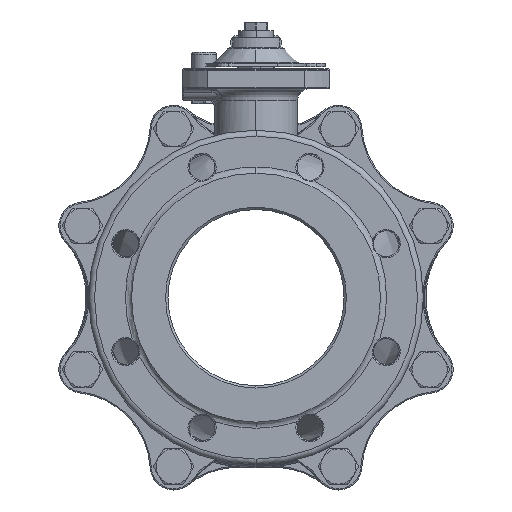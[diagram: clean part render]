
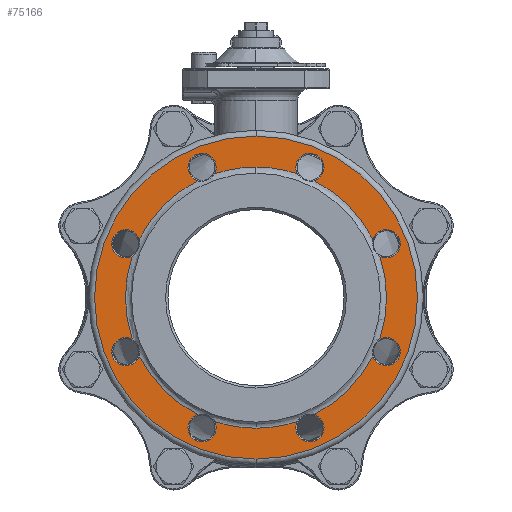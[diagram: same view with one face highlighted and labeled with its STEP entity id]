
A CAD part, left-side view. The second image highlights one B-rep face of the part: STEP entity #75166.
In plain terms, the highlighted planar face has unit normal (-1, 0, 0).
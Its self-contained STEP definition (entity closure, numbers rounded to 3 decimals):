
#14162=CARTESIAN_POINT('',(-137.,0.,0.));
#14163=DIRECTION('',(1.,0.,0.));
#14164=DIRECTION('',(0.,0.949,-0.317));
#14165=AXIS2_PLACEMENT_3D('',#14162,#14163,#14164);
#14167=CARTESIAN_POINT('',(-137.,0.,0.));
#14168=DIRECTION('',(1.,0.,0.));
#14169=DIRECTION('',(0.,0.447,-0.895));
#14170=AXIS2_PLACEMENT_3D('',#14167,#14168,#14169);
#14172=CARTESIAN_POINT('',(-137.,0.,0.));
#14173=DIRECTION('',(1.,0.,0.));
#14174=DIRECTION('',(0.,0.,-1.));
#14175=AXIS2_PLACEMENT_3D('',#14172,#14173,#14174);
#14177=CARTESIAN_POINT('',(-137.,0.,0.));
#14178=DIRECTION('',(-1.,0.,0.));
#14179=DIRECTION('',(0.,0.,-1.));
#14180=AXIS2_PLACEMENT_3D('',#14177,#14178,#14179);
#14182=CARTESIAN_POINT('',(-137.,0.,0.));
#14183=DIRECTION('',(-1.,0.,0.));
#14184=DIRECTION('',(0.,-0.447,-0.895));
#14185=AXIS2_PLACEMENT_3D('',#14182,#14183,#14184);
#14187=CARTESIAN_POINT('',(-137.,0.,0.));
#14188=DIRECTION('',(-1.,0.,0.));
#14189=DIRECTION('',(0.,-0.949,-0.317));
#14190=AXIS2_PLACEMENT_3D('',#14187,#14188,#14189);
#14192=CARTESIAN_POINT('',(-137.,0.,0.));
#14193=DIRECTION('',(-1.,0.,0.));
#14194=DIRECTION('',(0.,-0.895,0.447));
#14195=AXIS2_PLACEMENT_3D('',#14192,#14193,#14194);
#14197=CARTESIAN_POINT('',(-137.,0.,0.));
#14198=DIRECTION('',(-1.,0.,0.));
#14199=DIRECTION('',(0.,-0.317,0.949));
#14200=AXIS2_PLACEMENT_3D('',#14197,#14198,#14199);
#14202=CARTESIAN_POINT('',(-137.,0.,0.));
#14203=DIRECTION('',(1.,0.,0.));
#14204=DIRECTION('',(0.,0.317,0.949));
#14205=AXIS2_PLACEMENT_3D('',#14202,#14203,#14204);
#14207=CARTESIAN_POINT('',(-137.,0.,0.));
#14208=DIRECTION('',(1.,0.,0.));
#14209=DIRECTION('',(0.,0.895,0.447));
#14210=AXIS2_PLACEMENT_3D('',#14207,#14208,#14209);
#14217=CARTESIAN_POINT('',(-137.,0.,0.));
#14218=DIRECTION('',(1.,0.,0.));
#14219=DIRECTION('',(0.,0.,-1.));
#14220=AXIS2_PLACEMENT_3D('',#14217,#14218,#14219);
#14240=CARTESIAN_POINT('',(-137.,0.,0.));
#14241=DIRECTION('',(1.,0.,0.));
#14242=DIRECTION('',(0.,0.,1.));
#14243=AXIS2_PLACEMENT_3D('',#14240,#14241,#14242);
#15590=CARTESIAN_POINT('',(-137.,110.866,45.922));
#15591=DIRECTION('',(1.,0.,0.));
#15592=DIRECTION('',(0.,-0.449,-0.894));
#15593=AXIS2_PLACEMENT_3D('',#15590,#15591,#15592);
#15754=CARTESIAN_POINT('',(-137.,45.922,110.866));
#15755=DIRECTION('',(1.,0.,0.));
#15756=DIRECTION('',(0.,0.314,-0.949));
#15757=AXIS2_PLACEMENT_3D('',#15754,#15755,#15756);
#15909=CARTESIAN_POINT('',(-137.,-45.922,110.866));
#15910=DIRECTION('',(1.,0.,0.));
#15911=DIRECTION('',(0.,0.894,-0.449));
#15912=AXIS2_PLACEMENT_3D('',#15909,#15910,#15911);
#16064=CARTESIAN_POINT('',(-137.,-110.866,45.922));
#16065=DIRECTION('',(1.,0.,0.));
#16066=DIRECTION('',(0.,0.949,0.314));
#16067=AXIS2_PLACEMENT_3D('',#16064,#16065,#16066);
#16228=CARTESIAN_POINT('',(-137.,-110.866,-45.922));
#16229=DIRECTION('',(1.,0.,0.));
#16230=DIRECTION('',(0.,0.449,0.894));
#16231=AXIS2_PLACEMENT_3D('',#16228,#16229,#16230);
#16396=CARTESIAN_POINT('',(-137.,-45.922,-110.866));
#16397=DIRECTION('',(1.,0.,0.));
#16398=DIRECTION('',(0.,-0.314,0.949));
#16399=AXIS2_PLACEMENT_3D('',#16396,#16397,#16398);
#16551=CARTESIAN_POINT('',(-137.,45.922,-110.866));
#16552=DIRECTION('',(1.,0.,0.));
#16553=DIRECTION('',(0.,-0.894,0.449));
#16554=AXIS2_PLACEMENT_3D('',#16551,#16552,#16553);
#16702=CARTESIAN_POINT('',(-137.,110.866,-45.922));
#16703=DIRECTION('',(1.,0.,0.));
#16704=DIRECTION('',(0.,-0.949,-0.314));
#16705=AXIS2_PLACEMENT_3D('',#16702,#16703,#16704);
#49222=CARTESIAN_POINT('',(-137.,0.,-137.5));
#49223=CARTESIAN_POINT('',(-137.,0.,137.5));
#49224=VERTEX_POINT('',#49222);
#49225=VERTEX_POINT('',#49223);
#49362=CARTESIAN_POINT('',(-137.,105.478,35.199));
#49363=VERTEX_POINT('',#49362);
#49364=CARTESIAN_POINT('',(-137.,49.694,99.474));
#49365=VERTEX_POINT('',#49364);
#49366=CARTESIAN_POINT('',(-137.,-35.199,105.478));
#49367=VERTEX_POINT('',#49366);
#49368=CARTESIAN_POINT('',(-137.,-99.474,49.694));
#49369=VERTEX_POINT('',#49368);
#49370=CARTESIAN_POINT('',(-137.,-105.478,-35.199));
#49371=VERTEX_POINT('',#49370);
#49372=CARTESIAN_POINT('',(-137.,-49.694,-99.474));
#49373=VERTEX_POINT('',#49372);
#49374=CARTESIAN_POINT('',(-137.,35.199,-105.478));
#49375=VERTEX_POINT('',#49374);
#49376=CARTESIAN_POINT('',(-137.,99.474,-49.694));
#49377=VERTEX_POINT('',#49376);
#49378=CARTESIAN_POINT('',(-137.,99.474,49.694));
#49379=VERTEX_POINT('',#49378);
#49380=CARTESIAN_POINT('',(-137.,35.199,105.478));
#49381=VERTEX_POINT('',#49380);
#49382=CARTESIAN_POINT('',(-137.,-49.694,99.474));
#49383=VERTEX_POINT('',#49382);
#49384=CARTESIAN_POINT('',(-137.,-105.478,35.199));
#49385=VERTEX_POINT('',#49384);
#49386=CARTESIAN_POINT('',(-137.,-99.474,-49.694));
#49387=VERTEX_POINT('',#49386);
#49388=CARTESIAN_POINT('',(-137.,-35.199,-105.478));
#49389=VERTEX_POINT('',#49388);
#49390=CARTESIAN_POINT('',(-137.,49.694,-99.474));
#49391=VERTEX_POINT('',#49390);
#49392=CARTESIAN_POINT('',(-137.,105.478,-35.199));
#49393=VERTEX_POINT('',#49392);
#50284=CARTESIAN_POINT('',(-137.,0.,111.196));
#50285=VERTEX_POINT('',#50284);
#50286=CARTESIAN_POINT('',(-137.,0.,-111.196));
#50287=VERTEX_POINT('',#50286);
#75127=CARTESIAN_POINT('',(-137.,0.,0.));
#75128=DIRECTION('',(-1.,0.,0.));
#75129=DIRECTION('',(0.,0.,1.));
#75130=AXIS2_PLACEMENT_3D('',#75127,#75128,#75129);
#75131=PLANE('',#75130);
#75133=ORIENTED_EDGE('',*,*,#75132,.T.);
#75135=ORIENTED_EDGE('',*,*,#75134,.T.);
#75136=EDGE_LOOP('',(#75133,#75135));
#75137=FACE_OUTER_BOUND('',#75136,.F.);
#75139=ORIENTED_EDGE('',*,*,#75138,.F.);
#75140=ORIENTED_EDGE('',*,*,#75111,.F.);
#75142=ORIENTED_EDGE('',*,*,#75141,.F.);
#75143=ORIENTED_EDGE('',*,*,#75105,.F.);
#75145=ORIENTED_EDGE('',*,*,#75144,.F.);
#75146=ORIENTED_EDGE('',*,*,#75101,.F.);
#75147=ORIENTED_EDGE('',*,*,#75087,.T.);
#75149=ORIENTED_EDGE('',*,*,#75148,.F.);
#75150=ORIENTED_EDGE('',*,*,#75083,.T.);
#75152=ORIENTED_EDGE('',*,*,#75151,.F.);
#75153=ORIENTED_EDGE('',*,*,#75077,.T.);
#75155=ORIENTED_EDGE('',*,*,#75154,.F.);
#75156=ORIENTED_EDGE('',*,*,#75071,.T.);
#75158=ORIENTED_EDGE('',*,*,#75157,.F.);
#75159=ORIENTED_EDGE('',*,*,#75067,.T.);
#75160=ORIENTED_EDGE('',*,*,#75121,.F.);
#75162=ORIENTED_EDGE('',*,*,#75161,.F.);
#75163=ORIENTED_EDGE('',*,*,#75117,.F.);
#75164=EDGE_LOOP('',(#75139,#75140,#75142,#75143,#75145,#75146,#75147,#75149,
#75150,#75152,#75153,#75155,#75156,#75158,#75159,#75160,#75162,#75163));
#75165=FACE_BOUND('',#75164,.F.);
#75166=ADVANCED_FACE('',(#75137,#75165),#75131,.T.);
#14166=CIRCLE('',#14165,111.196);
#14171=CIRCLE('',#14170,111.196);
#14176=CIRCLE('',#14175,111.196);
#14181=CIRCLE('',#14180,111.196);
#14186=CIRCLE('',#14185,111.196);
#14191=CIRCLE('',#14190,111.196);
#14196=CIRCLE('',#14195,111.196);
#14201=CIRCLE('',#14200,111.196);
#14206=CIRCLE('',#14205,111.196);
#14211=CIRCLE('',#14210,111.196);
#14221=CIRCLE('',#14220,137.5);
#14244=CIRCLE('',#14243,137.5);
#15594=CIRCLE('',#15593,12.);
#15758=CIRCLE('',#15757,12.);
#15913=CIRCLE('',#15912,12.);
#16068=CIRCLE('',#16067,12.);
#16232=CIRCLE('',#16231,12.);
#16400=CIRCLE('',#16399,12.);
#16555=CIRCLE('',#16554,12.);
#16706=CIRCLE('',#16705,12.);
#75067=EDGE_CURVE('',#49367,#50285,#14201,.T.);
#75071=EDGE_CURVE('',#49369,#49383,#14196,.T.);
#75077=EDGE_CURVE('',#49371,#49385,#14191,.T.);
#75083=EDGE_CURVE('',#49373,#49387,#14186,.T.);
#75087=EDGE_CURVE('',#50287,#49389,#14181,.T.);
#75101=EDGE_CURVE('',#50287,#49375,#14176,.T.);
#75105=EDGE_CURVE('',#49391,#49377,#14171,.T.);
#75111=EDGE_CURVE('',#49393,#49363,#14166,.T.);
#75117=EDGE_CURVE('',#49379,#49365,#14211,.T.);
#75121=EDGE_CURVE('',#49381,#50285,#14206,.T.);
#75132=EDGE_CURVE('',#49224,#49225,#14221,.T.);
#75134=EDGE_CURVE('',#49225,#49224,#14244,.T.);
#75138=EDGE_CURVE('',#49363,#49379,#15594,.T.);
#75141=EDGE_CURVE('',#49377,#49393,#16706,.T.);
#75144=EDGE_CURVE('',#49375,#49391,#16555,.T.);
#75148=EDGE_CURVE('',#49373,#49389,#16400,.T.);
#75151=EDGE_CURVE('',#49371,#49387,#16232,.T.);
#75154=EDGE_CURVE('',#49369,#49385,#16068,.T.);
#75157=EDGE_CURVE('',#49367,#49383,#15913,.T.);
#75161=EDGE_CURVE('',#49365,#49381,#15758,.T.);
